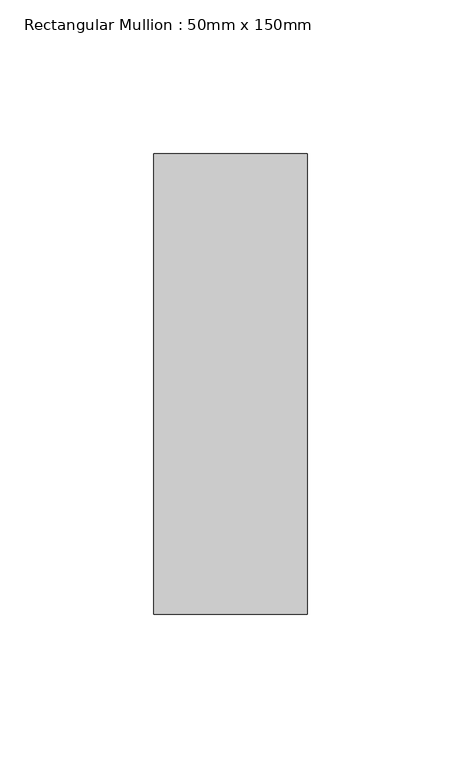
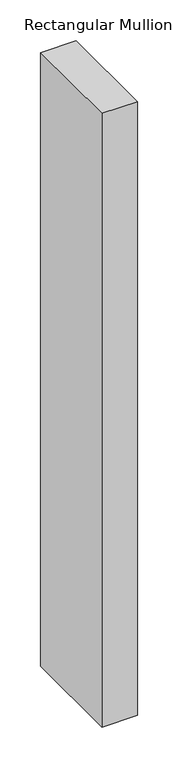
"""IFC4 building model written with IfcOpenShell, lengths in millimetres: member geometry, Rectangular Mullion : 50mm x 150mm."""

from ifc_helpers import new_model, si_unit, frame, origin, place, context, project, spatial, polyline, outline, extrude, source, transform, mapped, element, save


def rectangular_mullion_50mm_x_150mm_94dfdfd7(model_context):
    return source(origin(), model_context, "Body", "SweptSolid", [
        extrude(outline(polyline([(25.0, 75.0), (25.0, -75.0), (-25.0, -75.0), (-25.0, 75.0), (25.0, 75.0)])), frame((0.0, 0.0, -916.6666667), z_axis=(0.0, 0.0, 1.0), x_axis=(1.0, 0.0, 0.0)), (0.0, 0.0, 1.0), 916.6666667),
    ])


if __name__ == "__main__":
    model = new_model("IFC4")
    model_context = context("Model", 3, world=origin())
    ifc_project = project(units=[si_unit("LENGTHUNIT", "METRE", prefix="MILLI")], contexts=[model_context])
    site = spatial("IfcSite", under=ifc_project)
    building = spatial("IfcBuilding", under=site)
    placement = place(None, origin())
    rectangular_mullion_50mm_x_150mm_shape = rectangular_mullion_50mm_x_150mm_94dfdfd7(model_context)
    element("IfcMember", 1, ObjectType="Rectangular Mullion : 50mm x 150mm", at=placement, inside=building, context=model_context, shape_type="MappedRepresentation", body=[
        mapped(rectangular_mullion_50mm_x_150mm_shape, transform((0.0, 0.0, 0.0), x_axis=(1.0, 0.0, 0.0), y_axis=(0.0, 1.0, 0.0), z_axis=(0.0, 0.0, 1.0))),
    ])
    save(model, "model.ifc")
